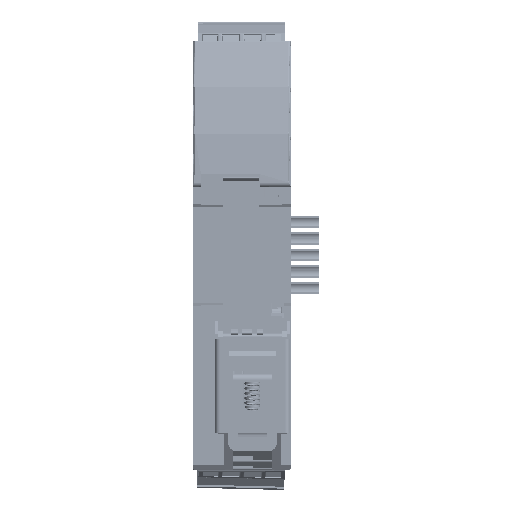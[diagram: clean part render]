
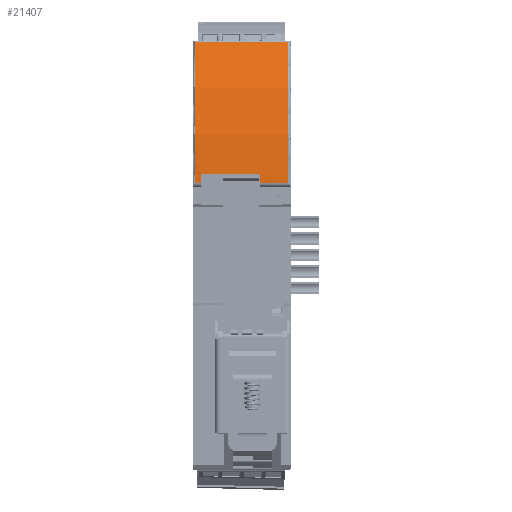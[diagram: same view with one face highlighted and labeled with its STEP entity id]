
A CAD part, front view. The second image highlights one B-rep face of the part: STEP entity #21407.
In plain terms, the highlighted cylindrical face has radius 80 mm (diameter 160 mm), a partial arc.
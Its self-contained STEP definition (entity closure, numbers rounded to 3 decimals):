
#21407=ADVANCED_FACE('',(#66698),#66700,.T.);
#66698=FACE_BOUND('',#66699,.T.);
#66699=EDGE_LOOP('',(#124227,#124228,#124229,#124230,#124231,#124232,#124233,#124234));
#66700=CYLINDRICAL_SURFACE('',#66701,80.);
#66701=AXIS2_PLACEMENT_3D('',#66702,#66703,#66704);
#66702=CARTESIAN_POINT('',(-0.85,75.75,13.5));
#66703=DIRECTION('',(1.,0.,0.));
#66704=DIRECTION('',(0.,0.,-1.));
#124227=ORIENTED_EDGE('',*,*,#156036,.F.);
#124228=ORIENTED_EDGE('',*,*,#156043,.T.);
#124229=ORIENTED_EDGE('',*,*,#156044,.F.);
#124230=ORIENTED_EDGE('',*,*,#155640,.F.);
#124231=ORIENTED_EDGE('',*,*,#155637,.T.);
#124232=ORIENTED_EDGE('',*,*,#156045,.T.);
#124233=ORIENTED_EDGE('',*,*,#155233,.T.);
#124234=ORIENTED_EDGE('',*,*,#155231,.T.);
#155231=EDGE_CURVE('',#180372,#180370,#180373,.T.);
#155233=EDGE_CURVE('',#180375,#180372,#180376,.T.);
#155637=EDGE_CURVE('',#181086,#181087,#181088,.T.);
#155640=EDGE_CURVE('',#181086,#181091,#181092,.T.);
#156036=EDGE_CURVE('',#181812,#180370,#181814,.T.);
#156043=EDGE_CURVE('',#181812,#181826,#181827,.T.);
#156044=EDGE_CURVE('',#181091,#181826,#181828,.T.);
#156045=EDGE_CURVE('',#181087,#180375,#181829,.T.);
#180370=VERTEX_POINT('',#224757);
#180372=VERTEX_POINT('',#224762);
#180373=LINE('',#224763,#224764);
#180375=VERTEX_POINT('',#224835);
#180376=CIRCLE('',#224836,80.);
#181086=VERTEX_POINT('',#226754);
#181087=VERTEX_POINT('',#226755);
#181088=CIRCLE('',#226756,80.);
#181091=VERTEX_POINT('',#226846);
#181092=LINE('',#226847,#226848);
#181812=VERTEX_POINT('',#228449);
#181814=CIRCLE('',#228453,80.);
#181826=VERTEX_POINT('',#228480);
#181827=LINE('',#228481,#228482);
#181828=CIRCLE('',#228484,80.);
#181829=LINE('',#228488,#228489);
#224757=CARTESIAN_POINT('',(-9.45,-4.184,16.741));
#224762=CARTESIAN_POINT('',(-10.85,-4.184,16.741));
#224763=CARTESIAN_POINT('',(-10.85,-4.184,16.741));
#224764=VECTOR('',#224765,1.);
#224765=DIRECTION('',(1.,0.,0.));
#224835=CARTESIAN_POINT('',(-10.85,4.169,49.223));
#224836=AXIS2_PLACEMENT_3D('',#224837,#224838,#224839);
#224837=CARTESIAN_POINT('',(-10.85,75.75,13.5));
#224838=DIRECTION('',(1.,0.,0.));
#224839=DIRECTION('',(0.,-0.895,0.447));
#226754=CARTESIAN_POINT('',(10.75,-4.184,16.741));
#226755=CARTESIAN_POINT('',(10.75,4.169,49.223));
#226756=AXIS2_PLACEMENT_3D('',#226757,#226758,#226759);
#226757=CARTESIAN_POINT('',(10.75,75.75,13.5));
#226758=DIRECTION('',(-1.,0.,0.));
#226759=DIRECTION('',(0.,-0.999,0.041));
#226846=CARTESIAN_POINT('',(4.15,-4.184,16.741));
#226847=CARTESIAN_POINT('',(10.75,-4.184,16.741));
#226848=VECTOR('',#226849,1.);
#226849=DIRECTION('',(-1.,0.,0.));
#228449=CARTESIAN_POINT('',(-9.45,-4.081,18.7));
#228453=AXIS2_PLACEMENT_3D('',#228454,#228455,#228456);
#228454=CARTESIAN_POINT('',(-9.45,75.75,13.5));
#228455=DIRECTION('',(1.,0.,0.));
#228456=DIRECTION('',(0.,-0.998,0.065));
#228480=CARTESIAN_POINT('',(4.15,-4.081,18.7));
#228481=CARTESIAN_POINT('',(-9.45,-4.081,18.7));
#228482=VECTOR('',#228483,1.);
#228483=DIRECTION('',(1.,0.,0.));
#228484=AXIS2_PLACEMENT_3D('',#228485,#228486,#228487);
#228485=CARTESIAN_POINT('',(4.15,75.75,13.5));
#228486=DIRECTION('',(-1.,0.,0.));
#228487=DIRECTION('',(0.,-0.999,0.041));
#228488=CARTESIAN_POINT('',(10.75,4.169,49.223));
#228489=VECTOR('',#228490,1.);
#228490=DIRECTION('',(-1.,0.,0.));
